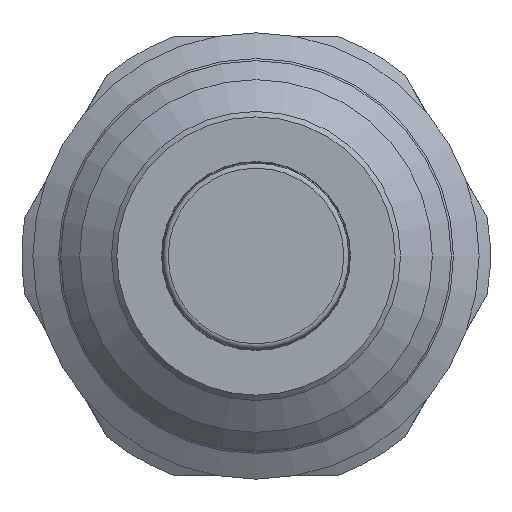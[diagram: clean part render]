
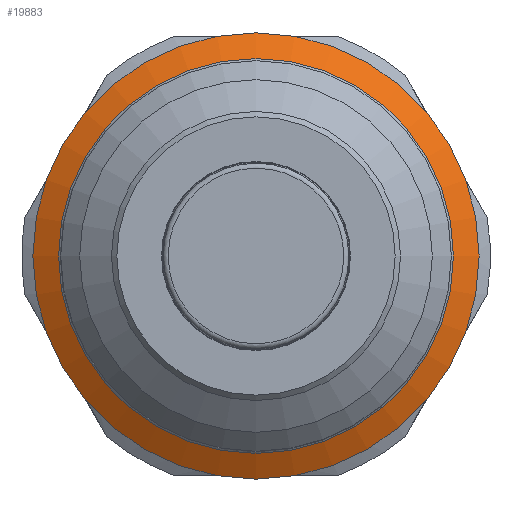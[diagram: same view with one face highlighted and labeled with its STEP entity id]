
A CAD part, front view. The second image highlights one B-rep face of the part: STEP entity #19883.
In plain terms, the highlighted conical face has half-angle 60 degrees and reference radius 19.55 mm.
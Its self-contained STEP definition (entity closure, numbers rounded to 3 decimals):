
#2173=CONICAL_SURFACE('',#20877,19.55,1.047);
#2858=LINE('',#34903,#4024);
#4024=VECTOR('',#22808,19.55);
#5235=FACE_OUTER_BOUND('',#6311,.T.);
#6311=EDGE_LOOP('',(#15439,#15440,#15441,#15442,#15443));
#7028=CIRCLE('',#20860,20.85);
#7037=CIRCLE('',#20873,18.45);
#7038=CIRCLE('',#20874,18.45);
#8248=VERTEX_POINT('',#34870);
#8256=VERTEX_POINT('',#34893);
#8257=VERTEX_POINT('',#34895);
#10781=EDGE_CURVE('',#8248,#8248,#7028,.T.);
#10792=EDGE_CURVE('',#8256,#8257,#7037,.T.);
#10793=EDGE_CURVE('',#8257,#8256,#7038,.T.);
#10796=EDGE_CURVE('',#8248,#8257,#2858,.T.);
#15439=ORIENTED_EDGE('',*,*,#10781,.F.);
#15440=ORIENTED_EDGE('',*,*,#10796,.T.);
#15441=ORIENTED_EDGE('',*,*,#10792,.F.);
#15442=ORIENTED_EDGE('',*,*,#10793,.F.);
#15443=ORIENTED_EDGE('',*,*,#10796,.F.);
#19883=ADVANCED_FACE('',(#5235),#2173,.T.);
#20860=AXIS2_PLACEMENT_3D('',#34872,#22769,#22770);
#20873=AXIS2_PLACEMENT_3D('',#34896,#22797,#22798);
#20874=AXIS2_PLACEMENT_3D('',#34897,#22799,#22800);
#20877=AXIS2_PLACEMENT_3D('',#34902,#22806,#22807);
#22769=DIRECTION('center_axis',(0.,1.,0.));
#22770=DIRECTION('ref_axis',(1.,0.,0.));
#22797=DIRECTION('center_axis',(0.,-1.,0.));
#22798=DIRECTION('ref_axis',(1.,0.,0.));
#22799=DIRECTION('center_axis',(0.,-1.,0.));
#22800=DIRECTION('ref_axis',(1.,0.,0.));
#22806=DIRECTION('center_axis',(0.,1.,0.));
#22807=DIRECTION('ref_axis',(-1.,0.,0.));
#22808=DIRECTION('',(-0.866,-0.5,0.));
#34870=CARTESIAN_POINT('',(20.85,-0.599,0.));
#34872=CARTESIAN_POINT('Origin',(0.,-0.599,0.));
#34893=CARTESIAN_POINT('',(0.,-1.985,-18.45));
#34895=CARTESIAN_POINT('',(18.45,-1.985,0.));
#34896=CARTESIAN_POINT('Origin',(0.,-1.985,0.));
#34897=CARTESIAN_POINT('Origin',(0.,-1.985,0.));
#34902=CARTESIAN_POINT('Origin',(0.,-1.349,0.));
#34903=CARTESIAN_POINT('',(19.55,-1.349,0.));
